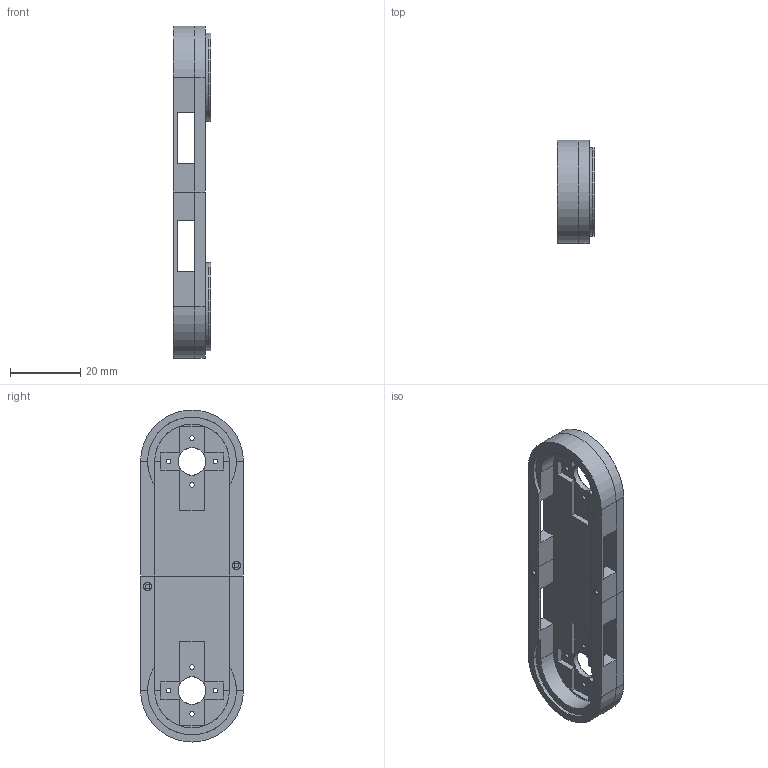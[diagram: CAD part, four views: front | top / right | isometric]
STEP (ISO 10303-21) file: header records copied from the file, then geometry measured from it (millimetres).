
FILE_DESCRIPTION(('FreeCAD Model'),'2;1');
FILE_NAME('/Users/alberto/Desktop/Dtto v2.0.1 STEP/012-1.step', '2017-05-29T11:48:29',('Author'),(''), 'Open CASCADE STEP processor 6.8','FreeCAD','Unknown');
FILE_SCHEMA(('AUTOMOTIVE_DESIGN_CC2 { 1 2 10303 214 -1 1 5 4 }'));
Length unit declared in the file: millimetre
Products named in the file (3): ASSEMBLY; Clone_of_Cut233; Cut233
Assembly tree (2 placements, depth 2):
  ASSEMBLY
    Clone_of_Cut233
    Cut233
Bounding box: 10.5 x 29.2 x 94.2 mm (x, y, z)
Volume: 11480.9 mm3; surface area: 9199.9 mm2
Topology: 2 solids, 2 shells, 142 faces, 366 edges, 224 vertices
Faces by surface type: plane 102, cylinder 28, cone 12
Full cylindrical faces by diameter (mm): 1.3 x10, 7.8 x2, 21 x2, 25 x4
Entity records: 9139 total; most frequent: CARTESIAN_POINT 1847, DIRECTION 1322, LINE 742, VECTOR 742, ORIENTED_EDGE 732, PCURVE 732, DEFINITIONAL_REPRESENTATION 732, EDGE_CURVE 366
